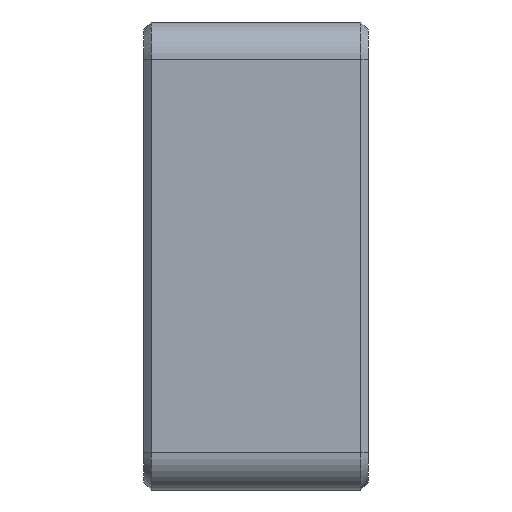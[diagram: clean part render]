
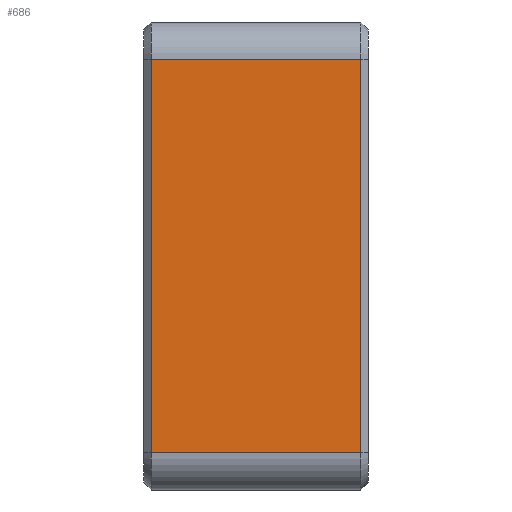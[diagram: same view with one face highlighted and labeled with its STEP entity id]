
A CAD part, left-side view. The second image highlights one B-rep face of the part: STEP entity #686.
In plain terms, the highlighted planar face has unit normal (-1, 0, 0).
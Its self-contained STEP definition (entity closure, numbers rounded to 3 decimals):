
#94=FACE_OUTER_BOUND('',#138,.T.);
#138=EDGE_LOOP('',(#563,#564,#565,#566));
#182=LINE('',#1079,#250);
#196=LINE('',#1117,#264);
#205=LINE('',#1141,#273);
#206=LINE('',#1143,#274);
#250=VECTOR('',#867,10.);
#264=VECTOR('',#907,10.);
#273=VECTOR('',#936,10.);
#274=VECTOR('',#939,10.);
#316=VERTEX_POINT('',#1073);
#317=VERTEX_POINT('',#1077);
#325=VERTEX_POINT('',#1107);
#327=VERTEX_POINT('',#1113);
#386=EDGE_CURVE('',#316,#317,#182,.T.);
#405=EDGE_CURVE('',#325,#327,#196,.T.);
#418=EDGE_CURVE('',#327,#316,#205,.T.);
#419=EDGE_CURVE('',#317,#325,#206,.T.);
#563=ORIENTED_EDGE('',*,*,#386,.F.);
#564=ORIENTED_EDGE('',*,*,#418,.F.);
#565=ORIENTED_EDGE('',*,*,#405,.F.);
#566=ORIENTED_EDGE('',*,*,#419,.F.);
#649=PLANE('',#764);
#686=ADVANCED_FACE('',(#94),#649,.T.);
#764=AXIS2_PLACEMENT_3D('',#1142,#937,#938);
#867=DIRECTION('',(0.,0.,1.));
#907=DIRECTION('',(0.,0.,-1.));
#936=DIRECTION('',(0.,1.,0.));
#937=DIRECTION('center_axis',(-1.,0.,0.));
#938=DIRECTION('ref_axis',(0.,0.,1.));
#939=DIRECTION('',(0.,-1.,0.));
#1073=CARTESIAN_POINT('',(-248.669,1.261,111.132));
#1077=CARTESIAN_POINT('',(-248.669,1.261,132.132));
#1079=CARTESIAN_POINT('',(-248.669,1.261,115.382));
#1107=CARTESIAN_POINT('',(-248.669,-9.939,132.132));
#1113=CARTESIAN_POINT('',(-248.669,-9.939,111.132));
#1117=CARTESIAN_POINT('',(-248.669,-9.939,115.382));
#1141=CARTESIAN_POINT('',(-248.669,-10.339,111.132));
#1142=CARTESIAN_POINT('Origin',(-248.669,-10.339,109.132));
#1143=CARTESIAN_POINT('',(-248.669,-10.339,132.132));
